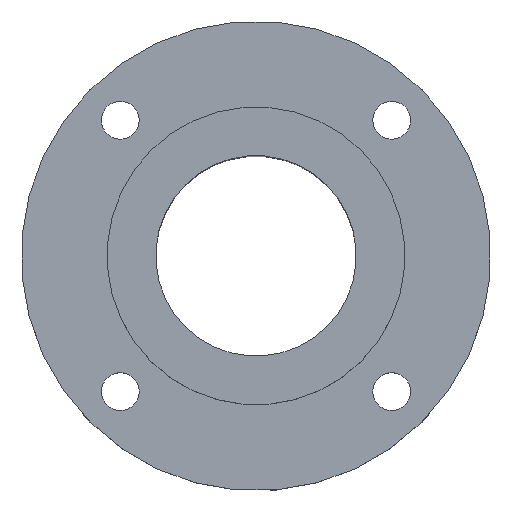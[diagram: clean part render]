
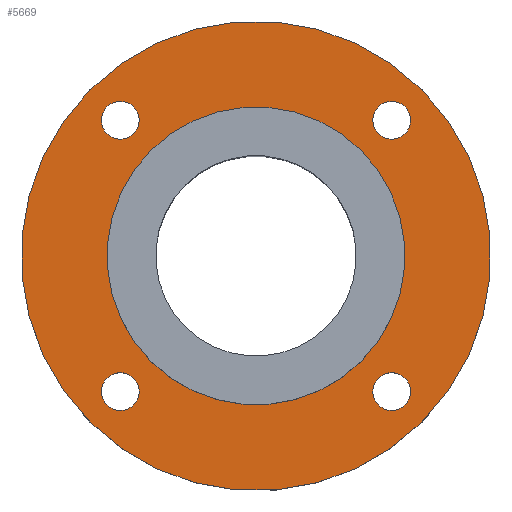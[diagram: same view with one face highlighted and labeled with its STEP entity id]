
A CAD part, top view. The second image highlights one B-rep face of the part: STEP entity #5669.
In plain terms, the highlighted planar face has unit normal (0, 0, 1).
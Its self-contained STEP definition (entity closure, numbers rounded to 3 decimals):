
#114=CIRCLE('',#6027,26.);
#118=CIRCLE('',#6035,41.);
#119=CIRCLE('',#6037,3.3);
#120=CIRCLE('',#6038,3.3);
#121=CIRCLE('',#6039,3.3);
#122=CIRCLE('',#6040,3.3);
#525=ORIENTED_EDGE('',*,*,#2155,.F.);
#526=ORIENTED_EDGE('',*,*,#2156,.F.);
#527=ORIENTED_EDGE('',*,*,#2157,.F.);
#528=ORIENTED_EDGE('',*,*,#2158,.F.);
#529=ORIENTED_EDGE('',*,*,#2150,.T.);
#530=ORIENTED_EDGE('',*,*,#2154,.T.);
#2150=EDGE_CURVE('',#2968,#2968,#114,.F.);
#2154=EDGE_CURVE('',#2972,#2972,#118,.T.);
#2155=EDGE_CURVE('',#2973,#2973,#119,.T.);
#2156=EDGE_CURVE('',#2974,#2974,#120,.T.);
#2157=EDGE_CURVE('',#2975,#2975,#121,.T.);
#2158=EDGE_CURVE('',#2976,#2976,#122,.T.);
#2968=VERTEX_POINT('',#9013);
#2972=VERTEX_POINT('',#9025);
#2973=VERTEX_POINT('',#9028);
#2974=VERTEX_POINT('',#9030);
#2975=VERTEX_POINT('',#9032);
#2976=VERTEX_POINT('',#9034);
#4651=EDGE_LOOP('',(#525));
#4652=EDGE_LOOP('',(#526));
#4653=EDGE_LOOP('',(#527));
#4654=EDGE_LOOP('',(#528));
#4655=EDGE_LOOP('',(#529));
#4656=EDGE_LOOP('',(#530));
#5059=FACE_BOUND('',#4651,.T.);
#5060=FACE_BOUND('',#4652,.T.);
#5061=FACE_BOUND('',#4653,.T.);
#5062=FACE_BOUND('',#4654,.T.);
#5063=FACE_BOUND('',#4655,.T.);
#5064=FACE_BOUND('',#4656,.T.);
#5410=PLANE('',#6036);
#5669=ADVANCED_FACE('',(#5059,#5060,#5061,#5062,#5063,#5064),#5410,.T.);
#6027=AXIS2_PLACEMENT_3D('',#9012,#6544,#6545);
#6035=AXIS2_PLACEMENT_3D('',#9024,#6560,#6561);
#6036=AXIS2_PLACEMENT_3D('',#9026,#6562,#6563);
#6037=AXIS2_PLACEMENT_3D('',#9027,#6564,#6565);
#6038=AXIS2_PLACEMENT_3D('',#9029,#6566,#6567);
#6039=AXIS2_PLACEMENT_3D('',#9031,#6568,#6569);
#6040=AXIS2_PLACEMENT_3D('',#9033,#6570,#6571);
#6544=DIRECTION('',(0.,0.,1.));
#6545=DIRECTION('',(0.707,-0.707,0.));
#6560=DIRECTION('',(0.,0.,1.));
#6561=DIRECTION('',(0.707,-0.707,0.));
#6562=DIRECTION('',(0.,0.,1.));
#6563=DIRECTION('',(0.707,-0.707,0.));
#6564=DIRECTION('',(0.,0.,1.));
#6565=DIRECTION('',(0.707,-0.707,0.));
#6566=DIRECTION('',(0.,0.,1.));
#6567=DIRECTION('',(0.707,-0.707,0.));
#6568=DIRECTION('',(0.,0.,1.));
#6569=DIRECTION('',(0.707,-0.707,0.));
#6570=DIRECTION('',(0.,0.,1.));
#6571=DIRECTION('',(0.707,-0.707,0.));
#9012=CARTESIAN_POINT('',(0.,0.,0.));
#9013=CARTESIAN_POINT('',(18.385,-18.385,0.));
#9024=CARTESIAN_POINT('',(0.,0.,0.));
#9025=CARTESIAN_POINT('',(28.991,-28.991,0.));
#9026=CARTESIAN_POINT('',(0.,0.,0.));
#9027=CARTESIAN_POINT('',(23.688,23.688,0.));
#9028=CARTESIAN_POINT('',(26.022,21.355,0.));
#9029=CARTESIAN_POINT('',(-23.688,23.688,0.));
#9030=CARTESIAN_POINT('',(-21.355,21.355,0.));
#9031=CARTESIAN_POINT('',(-23.688,-23.688,0.));
#9032=CARTESIAN_POINT('',(-21.355,-26.022,0.));
#9033=CARTESIAN_POINT('',(23.688,-23.688,0.));
#9034=CARTESIAN_POINT('',(26.022,-26.022,0.));
